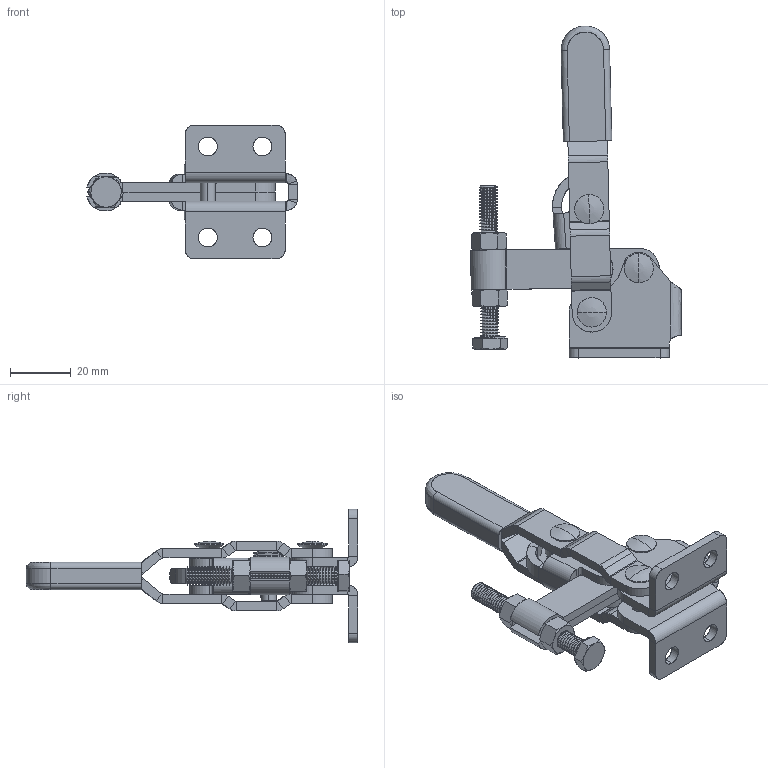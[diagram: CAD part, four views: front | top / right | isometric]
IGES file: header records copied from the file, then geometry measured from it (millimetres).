
Start section: SolidWorks IGES file using analytic representation for surfaces
Global section: file name: \\KOUGU-SV1\Public\Solidworks\工具事業部\坂入用\Toggle clamp\ISK-40A0-T1\ISK-40A0 AssyT1.IGS; native system: SolidWorks 2020; preprocessor: SolidWorks 2020; author: design_room 03; date: 230210.152504; units: millimetre
Bounding box: 69.41 x 109.39 x 44 mm (x, y, z)
Surface area: 27419.4 mm2 (no closed solid volume)
Topology: 0 solids, 0 shells, 750 faces, 6690 edges, 6686 vertices
Faces by surface type: revolution 508, bspline 242
